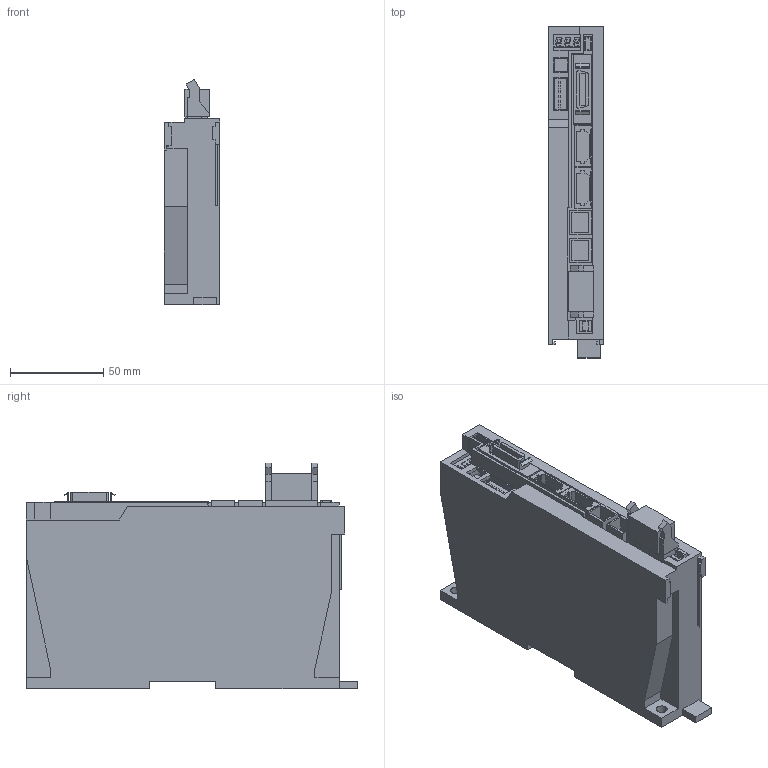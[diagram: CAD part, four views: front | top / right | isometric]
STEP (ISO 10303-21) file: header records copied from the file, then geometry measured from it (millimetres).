
FILE_DESCRIPTION((''),'2;1');
FILE_NAME('MR-J4W2-0303B6A_ASM','2014-10-21T',('DW61767'),(''),'PRO/ENGINEER BY PARAMETRIC TECHNOLOGY CORPORATION, 2011490','PRO/ENGINEER BY PARAMETRIC TECHNOLOGY CORPORATION, 2011490','');
FILE_SCHEMA(('CONFIG_CONTROL_DESIGN'));
Length unit declared in the file: millimetre
Products named in the file (12): J4W2-0303B6-CASE; J4W2-0303B6-7SEG; J4W2-0303B6-SW1; J4W2-0303B6-SW2; J4W2-0303B6-CN1; J4W2-0303B6-CN2; J4W2-0303B6-CN3; J4W2-0303B6-CN4; J4W2-0303B6-CN5; J4W2-0303B6-CNP1; J4W2-0303B6-CNP1-CABLE; MR-J4W2-0303B6A_ASM
Assembly tree (13 placements, depth 2):
  MR-J4W2-0303B6A_ASM
    J4W2-0303B6-CASE
    J4W2-0303B6-7SEG
    J4W2-0303B6-SW1
    J4W2-0303B6-SW2
    J4W2-0303B6-CN1  x2
    J4W2-0303B6-CN2  x2
    J4W2-0303B6-CN3
    J4W2-0303B6-CN4
    J4W2-0303B6-CN5
    J4W2-0303B6-CNP1
    J4W2-0303B6-CNP1-CABLE
Bounding box: 30 x 178 x 120.93 mm (x, y, z)
Volume: 123892.9 mm3; surface area: 106304 mm2
Topology: 13 solids, 13 shells, 563 faces, 1453 edges, 968 vertices
Faces by surface type: plane 527, cylinder 36
Entity records: 16101 total; most frequent: CARTESIAN_POINT 2823, ORIENTED_EDGE 2726, DIRECTION 2539, EDGE_CURVE 1363, VECTOR 1291, LINE 1291, VERTEX_POINT 908, AXIS2_PLACEMENT_3D 624
